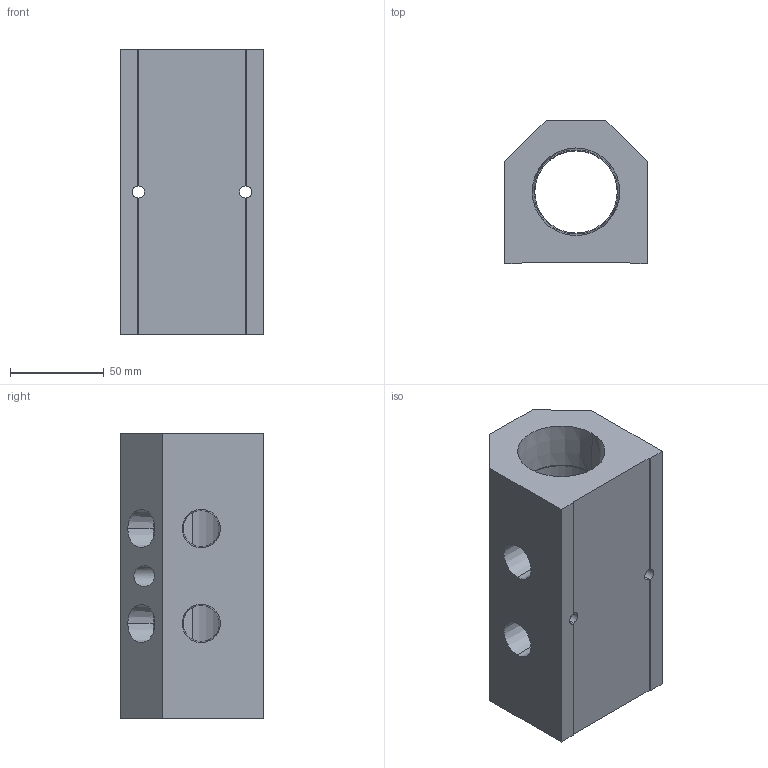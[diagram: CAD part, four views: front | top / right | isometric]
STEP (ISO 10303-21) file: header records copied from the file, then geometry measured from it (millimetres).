
FILE_DESCRIPTION (( 'STEP AP214' ), '1' );
FILE_NAME ('ALM2AB-N8N24-152B.step', '2022-02-07T09:29:01', ( '' ), ( '' ), 'SwSTEP 2.0', 'SolidWorks 2020', '' );
FILE_SCHEMA (( 'AUTOMOTIVE_DESIGN' ));
Length unit declared in the file: millimetre
Products named in the file (1): ALM2AB-N8N24-152B
Bounding box: 76.2 x 76.2 x 152 mm (x, y, z)
Volume: 539045.3 mm3; surface area: 75639.7 mm2
Topology: 1 solids, 1 shells, 300 faces, 794 edges, 528 vertices
Faces by surface type: plane 211, bspline 67, cone 12, cylinder 10
Entity records: 16538 total; most frequent: CARTESIAN_POINT 6616, ORIENTED_EDGE 1588, DIRECTION 1140, EDGE_CURVE 794, LINE 608, VECTOR 608, VERTEX_POINT 528, EDGE_LOOP 346
